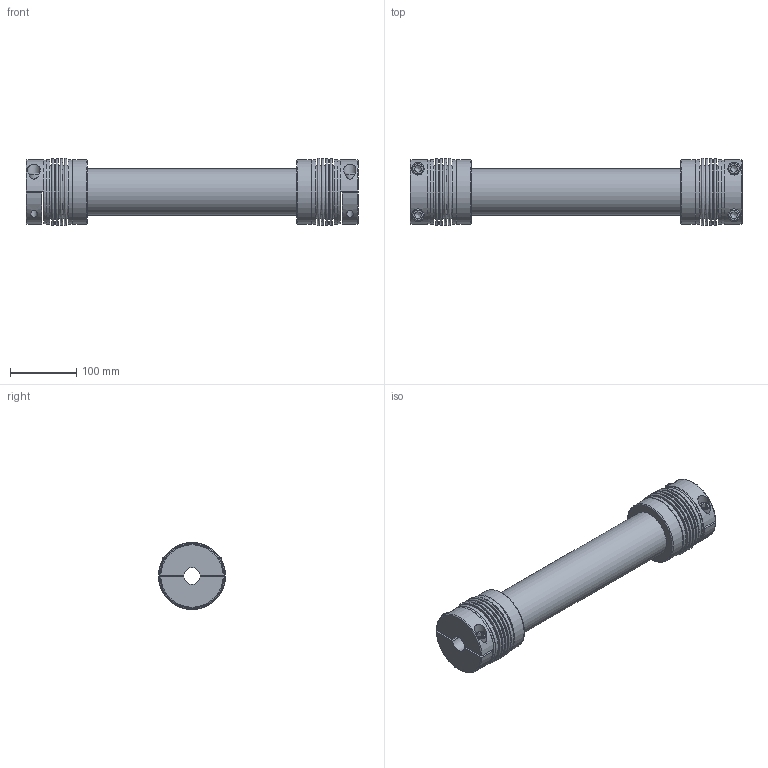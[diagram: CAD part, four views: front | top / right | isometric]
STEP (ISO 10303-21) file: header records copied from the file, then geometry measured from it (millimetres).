
FILE_DESCRIPTION( ( 'Unknown' ), '1' );
FILE_NAME( 'F:/JAKOB-STEP+IGES-Dateien/STEP-Dateien/WDE/WDE 250 - L=0,5m.stp', 'Unknown', ( 'Unknown' ), ( 'Unknown' ), 'PSStep 10.1', 'Unknown', ' ' );
FILE_SCHEMA( ( 'AUTOMOTIVE_DESIGN { 1 0 10303 214 1 1 1 1 }' ) );
Length unit declared in the file: millimetre
Products named in the file (1): WDE 250
Bounding box: 500 x 101 x 101 mm (x, y, z)
Volume: 841771.2 mm3; surface area: 379341.3 mm2
Topology: 1 solids, 1 shells, 238 faces, 482 edges, 316 vertices
Faces by surface type: plane 136, torus 52, cylinder 46, cone 4
Full cylindrical faces by diameter (mm): 10.2 x4, 12 x4, 12.5 x4, 13 x4, 18 x4, 19 x4, 64 x1, 70 x1, 74.643 x2, 95.4 x4, 96.6 x4, 97 x2
Entity records: 8260 total; most frequent: CARTESIAN_POINT 1711, DIRECTION 1018, ORIENTED_EDGE 728, AXIS2_PLACEMENT_3D 439, EDGE_LOOP 400, EDGE_CURVE 364, FACE_OUTER_BOUND 320, VERTEX_POINT 288
